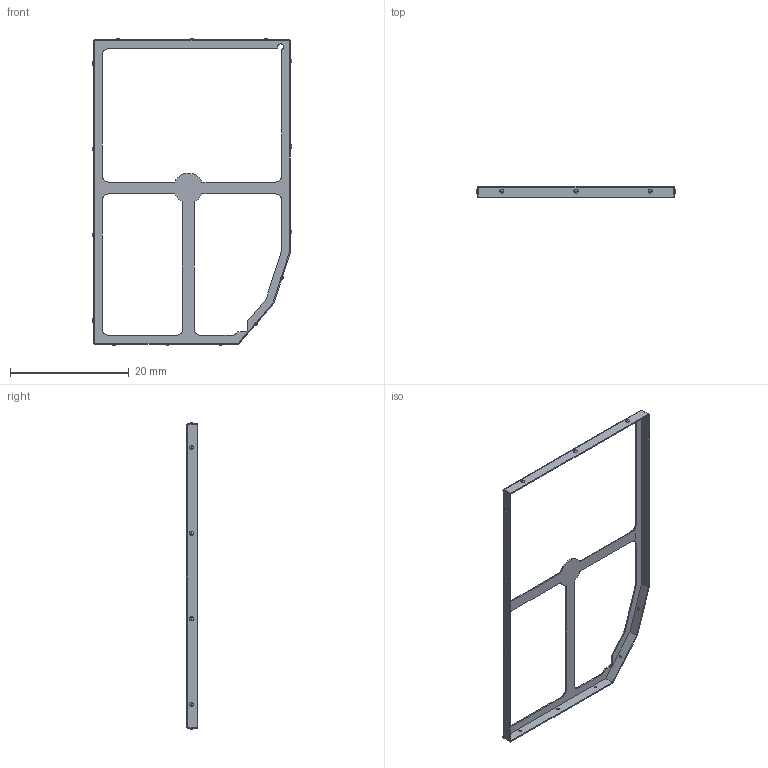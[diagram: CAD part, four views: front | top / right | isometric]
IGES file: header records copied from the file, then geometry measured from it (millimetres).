
Start section:  PTC IGES file: gtc01-a-mcs06-bb-frame_prt.igs
Global section: file name: gtc01-a-mcs06-bb-frame_prt.igs; native system: Pro/ENGINEER by Parametric Technology Corporation; preprocessor: 2006170; author: GRA; organization: Unknown; date: 20080630.105146; units: millimetre
Bounding box: 33.62 x 1.8 x 51.75 mm (x, y, z)
Surface area: 1294.9 mm2 (no closed solid volume)
Topology: 0 solids, 0 shells, 152 faces, 744 edges, 684 vertices
Faces by surface type: revolution 82, bspline 70
